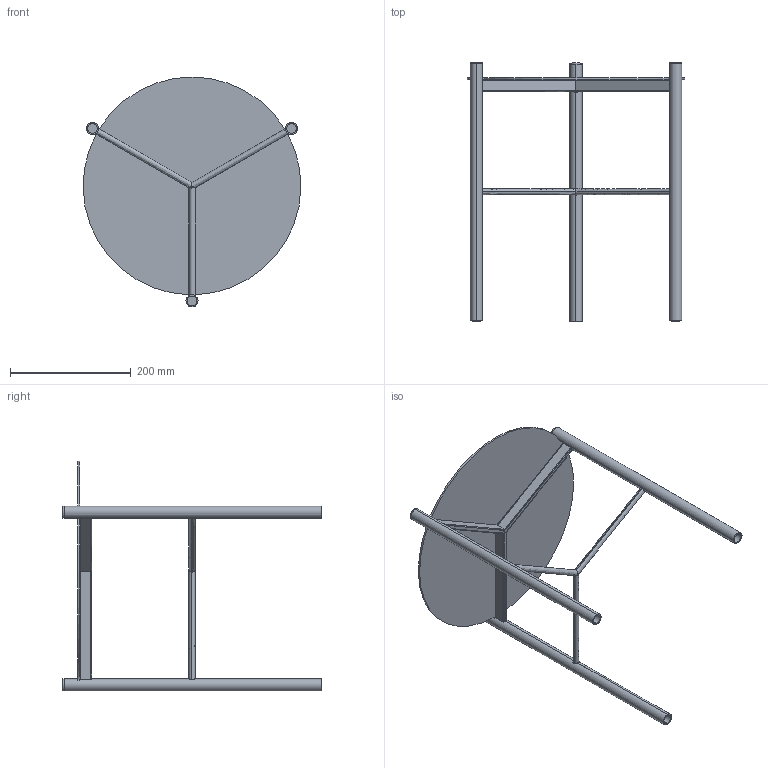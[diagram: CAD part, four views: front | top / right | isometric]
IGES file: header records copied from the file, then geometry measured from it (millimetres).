
Start section: SolidWorks IGES file using analytic representation for surfaces
Global section: file name: Y:\eforma\TECNICO\SOLIDWORKS\E-FORMA\2-TAVOLINI\JACK\02 parts\J501S.IGS; native system: SolidWorks 2022; preprocessor: SolidWorks 2022; author: eforma.tech; date: 240806.132704; units: millimetre
Bounding box: 359.95 x 427 x 380.07 mm (x, y, z)
Volume: 493869.9 mm3; surface area: 439448.3 mm2
Topology: 13 solids, 13 shells, 121 faces, 287 edges, 190 vertices
Faces by surface type: revolution 71, plane 50
